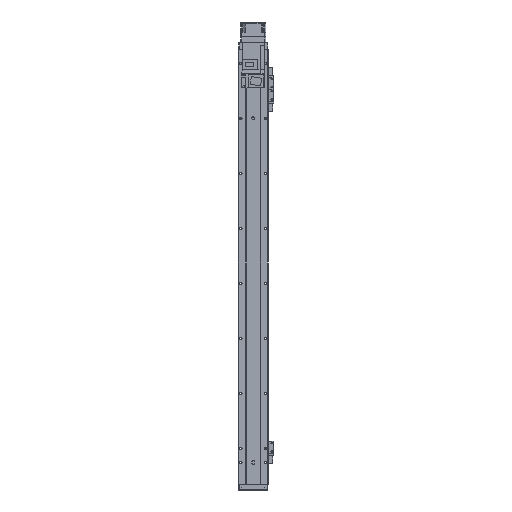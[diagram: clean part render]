
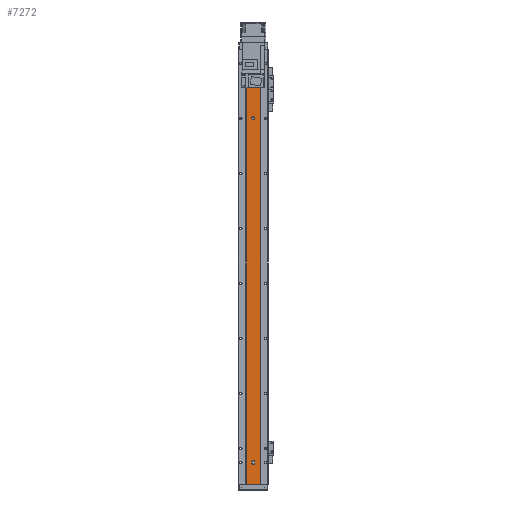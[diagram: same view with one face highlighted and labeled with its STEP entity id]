
A CAD part, front view. The second image highlights one B-rep face of the part: STEP entity #7272.
In plain terms, the highlighted planar face has unit normal (0, -1, 0).
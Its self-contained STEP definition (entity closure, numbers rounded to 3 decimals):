
#46 = LINE ( 'NONE', #29810, #12349 ) ;
#96 = EDGE_CURVE ( 'NONE', #15168, #7015, #14775, .T. ) ;
#427 = FACE_BOUND ( 'NONE', #5442, .T. ) ;
#704 = ORIENTED_EDGE ( 'NONE', *, *, #20556, .T. ) ;
#1408 = ORIENTED_EDGE ( 'NONE', *, *, #28056, .T. ) ;
#1480 = CARTESIAN_POINT ( 'NONE',  ( -12.293, 1.5, -790. ) ) ;
#1737 = VERTEX_POINT ( 'NONE', #4225 ) ;
#2088 = CARTESIAN_POINT ( 'NONE',  ( 12.293, 1.5, -790. ) ) ;
#2721 = CARTESIAN_POINT ( 'NONE',  ( 0., 1.5, -25. ) ) ;
#3595 = VERTEX_POINT ( 'NONE', #33755 ) ;
#3758 = CARTESIAN_POINT ( 'NONE',  ( 0., 1.5, -125. ) ) ;
#4225 = CARTESIAN_POINT ( 'NONE',  ( 2.5, 1.5, -125. ) ) ;
#4510 = CIRCLE ( 'NONE', #35746, 2.5 ) ;
#4597 = VERTEX_POINT ( 'NONE', #32052 ) ;
#4687 = LINE ( 'NONE', #17937, #28123 ) ;
#5322 = CARTESIAN_POINT ( 'NONE',  ( 2.5, 1.5, -751. ) ) ;
#5442 = EDGE_LOOP ( 'NONE', ( #21039, #28310 ) ) ;
#7015 = VERTEX_POINT ( 'NONE', #12715 ) ;
#7116 = CARTESIAN_POINT ( 'NONE',  ( -12.293, 1.5, -790. ) ) ;
#7272 = ADVANCED_FACE ( 'NONE', ( #30026, #38660, #427, #14615 ), #26119, .T. ) ;
#7790 = EDGE_LOOP ( 'NONE', ( #29105, #30253 ) ) ;
#8312 = DIRECTION ( 'NONE',  ( 1., 0., 0. ) ) ;
#8362 = VERTEX_POINT ( 'NONE', #7116 ) ;
#8939 = DIRECTION ( 'NONE',  ( 1., 0., 0. ) ) ;
#9000 = EDGE_LOOP ( 'NONE', ( #16383, #29176, #17064, #22560 ) ) ;
#9827 = CARTESIAN_POINT ( 'NONE',  ( 0., 1.5, -751. ) ) ;
#10028 = EDGE_CURVE ( 'NONE', #4597, #37436, #31676, .T. ) ;
#10062 = DIRECTION ( 'NONE',  ( 0., -1., 0. ) ) ;
#10605 = DIRECTION ( 'NONE',  ( 0., 0., 1. ) ) ;
#11236 = DIRECTION ( 'NONE',  ( 0., -1., 0. ) ) ;
#11722 = CARTESIAN_POINT ( 'NONE',  ( 12.293, 1.5, -790. ) ) ;
#12349 = VECTOR ( 'NONE', #39024, 1000. ) ;
#12602 = CARTESIAN_POINT ( 'NONE',  ( 0., 1.5, -125. ) ) ;
#12715 = CARTESIAN_POINT ( 'NONE',  ( -2.5, 1.5, -751. ) ) ;
#13343 = VECTOR ( 'NONE', #20706, 1000. ) ;
#14039 = EDGE_CURVE ( 'NONE', #7015, #21484, #32081, .T. ) ;
#14615 = FACE_OUTER_BOUND ( 'NONE', #21168, .T. ) ;
#14775 = LINE ( 'NONE', #36050, #13343 ) ;
#15168 = VERTEX_POINT ( 'NONE', #25139 ) ;
#16383 = ORIENTED_EDGE ( 'NONE', *, *, #14039, .F. ) ;
#16555 = CARTESIAN_POINT ( 'NONE',  ( 0., 1.5, -25. ) ) ;
#16699 = AXIS2_PLACEMENT_3D ( 'NONE', #9827, #31715, #25631 ) ;
#16886 = CIRCLE ( 'NONE', #32133, 2.5 ) ;
#17064 = ORIENTED_EDGE ( 'NONE', *, *, #18570, .F. ) ;
#17632 = DIRECTION ( 'NONE',  ( 0., -1., 0. ) ) ;
#17937 = CARTESIAN_POINT ( 'NONE',  ( 12.293, 1.5, 0. ) ) ;
#18203 = VERTEX_POINT ( 'NONE', #11722 ) ;
#18570 = EDGE_CURVE ( 'NONE', #22525, #15168, #16886, .T. ) ;
#19368 = EDGE_CURVE ( 'NONE', #8362, #3595, #39378, .T. ) ;
#20556 = EDGE_CURVE ( 'NONE', #18203, #21389, #46, .T. ) ;
#20706 = DIRECTION ( 'NONE',  ( 0., 0., -1. ) ) ;
#21039 = ORIENTED_EDGE ( 'NONE', *, *, #10028, .F. ) ;
#21168 = EDGE_LOOP ( 'NONE', ( #22321, #22193, #1408, #704 ) ) ;
#21389 = VERTEX_POINT ( 'NONE', #39409 ) ;
#21484 = VERTEX_POINT ( 'NONE', #5322 ) ;
#22193 = ORIENTED_EDGE ( 'NONE', *, *, #19368, .F. ) ;
#22310 = DIRECTION ( 'NONE',  ( 1., 0., 0. ) ) ;
#22321 = ORIENTED_EDGE ( 'NONE', *, *, #27285, .F. ) ;
#22383 = LINE ( 'NONE', #39332, #37268 ) ;
#22525 = VERTEX_POINT ( 'NONE', #35225 ) ;
#22550 = AXIS2_PLACEMENT_3D ( 'NONE', #2721, #17632, #23933 ) ;
#22560 = ORIENTED_EDGE ( 'NONE', *, *, #34407, .F. ) ;
#23933 = DIRECTION ( 'NONE',  ( 1., 0., 0. ) ) ;
#24178 = DIRECTION ( 'NONE',  ( 0., -1., 0. ) ) ;
#24449 = CIRCLE ( 'NONE', #29084, 2.5 ) ;
#25103 = CARTESIAN_POINT ( 'NONE',  ( -2.5, 1.5, -25. ) ) ;
#25124 = DIRECTION ( 'NONE',  ( 0., -1., 0. ) ) ;
#25139 = CARTESIAN_POINT ( 'NONE',  ( -2.5, 1.5, -749. ) ) ;
#25631 = DIRECTION ( 'NONE',  ( 1., 0., 0. ) ) ;
#26119 = PLANE ( 'NONE',  #26648 ) ;
#26648 = AXIS2_PLACEMENT_3D ( 'NONE', #2088, #11236, #8312 ) ;
#27285 = EDGE_CURVE ( 'NONE', #3595, #21389, #4687, .T. ) ;
#27559 = DIRECTION ( 'NONE',  ( 1., 0., 0. ) ) ;
#28056 = EDGE_CURVE ( 'NONE', #8362, #18203, #29977, .T. ) ;
#28123 = VECTOR ( 'NONE', #36608, 1000. ) ;
#28310 = ORIENTED_EDGE ( 'NONE', *, *, #31592, .F. ) ;
#29084 = AXIS2_PLACEMENT_3D ( 'NONE', #12602, #10062, #31279 ) ;
#29105 = ORIENTED_EDGE ( 'NONE', *, *, #37619, .F. ) ;
#29176 = ORIENTED_EDGE ( 'NONE', *, *, #96, .F. ) ;
#29810 = CARTESIAN_POINT ( 'NONE',  ( 12.293, 1.5, -790. ) ) ;
#29977 = LINE ( 'NONE', #34278, #32901 ) ;
#30026 = FACE_BOUND ( 'NONE', #9000, .T. ) ;
#30253 = ORIENTED_EDGE ( 'NONE', *, *, #33507, .F. ) ;
#30291 = CARTESIAN_POINT ( 'NONE',  ( -2.5, 1.5, -125. ) ) ;
#30383 = DIRECTION ( 'NONE',  ( 0., 0., 1. ) ) ;
#30907 = CIRCLE ( 'NONE', #22550, 2.5 ) ;
#31279 = DIRECTION ( 'NONE',  ( 1., 0., 0. ) ) ;
#31349 = DIRECTION ( 'NONE',  ( 1., 0., 0. ) ) ;
#31592 = EDGE_CURVE ( 'NONE', #37436, #4597, #30907, .T. ) ;
#31676 = CIRCLE ( 'NONE', #33515, 2.5 ) ;
#31715 = DIRECTION ( 'NONE',  ( 0., -1., 0. ) ) ;
#32052 = CARTESIAN_POINT ( 'NONE',  ( 2.5, 1.5, -25. ) ) ;
#32081 = CIRCLE ( 'NONE', #16699, 2.5 ) ;
#32133 = AXIS2_PLACEMENT_3D ( 'NONE', #36543, #24178, #8939 ) ;
#32901 = VECTOR ( 'NONE', #31349, 1000. ) ;
#33205 = VECTOR ( 'NONE', #10605, 1000. ) ;
#33507 = EDGE_CURVE ( 'NONE', #38557, #1737, #24449, .T. ) ;
#33515 = AXIS2_PLACEMENT_3D ( 'NONE', #16555, #34688, #22310 ) ;
#33755 = CARTESIAN_POINT ( 'NONE',  ( -12.293, 1.5, 0. ) ) ;
#34278 = CARTESIAN_POINT ( 'NONE',  ( 12.293, 1.5, -790. ) ) ;
#34407 = EDGE_CURVE ( 'NONE', #21484, #22525, #22383, .T. ) ;
#34688 = DIRECTION ( 'NONE',  ( 0., -1., 0. ) ) ;
#35225 = CARTESIAN_POINT ( 'NONE',  ( 2.5, 1.5, -749. ) ) ;
#35746 = AXIS2_PLACEMENT_3D ( 'NONE', #3758, #25124, #27559 ) ;
#36050 = CARTESIAN_POINT ( 'NONE',  ( -2.5, 1.5, -790. ) ) ;
#36543 = CARTESIAN_POINT ( 'NONE',  ( 0., 1.5, -749. ) ) ;
#36608 = DIRECTION ( 'NONE',  ( 1., 0., 0. ) ) ;
#37268 = VECTOR ( 'NONE', #30383, 1000. ) ;
#37436 = VERTEX_POINT ( 'NONE', #25103 ) ;
#37619 = EDGE_CURVE ( 'NONE', #1737, #38557, #4510, .T. ) ;
#38557 = VERTEX_POINT ( 'NONE', #30291 ) ;
#38660 = FACE_BOUND ( 'NONE', #7790, .T. ) ;
#39024 = DIRECTION ( 'NONE',  ( 0., 0., 1. ) ) ;
#39332 = CARTESIAN_POINT ( 'NONE',  ( 2.5, 1.5, -790. ) ) ;
#39378 = LINE ( 'NONE', #1480, #33205 ) ;
#39409 = CARTESIAN_POINT ( 'NONE',  ( 12.293, 1.5, 0. ) ) ;
